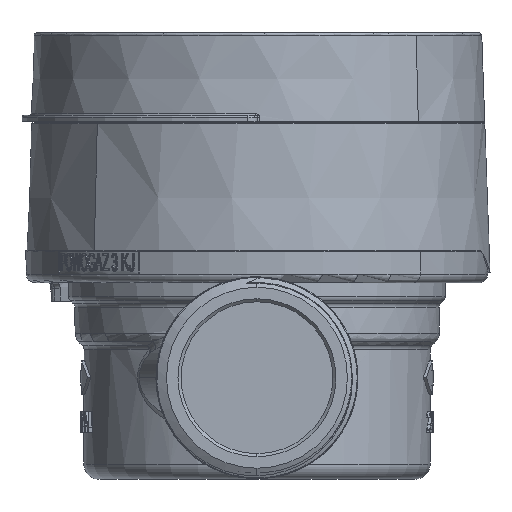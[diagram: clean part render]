
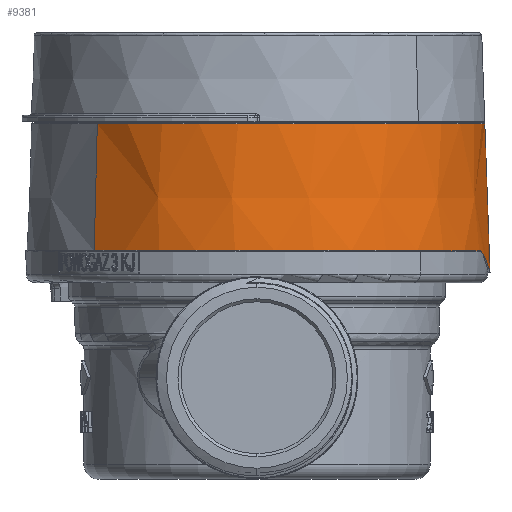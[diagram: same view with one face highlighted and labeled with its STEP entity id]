
A CAD part, left-side view. The second image highlights one B-rep face of the part: STEP entity #9381.
In plain terms, the highlighted conical face has half-angle 2 degrees and reference radius 37.9 mm.
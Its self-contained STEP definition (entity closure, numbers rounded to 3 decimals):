
#779 = CIRCLE ( 'NONE', #156481, 37.357 ) ;
#2079 = FACE_OUTER_BOUND ( 'NONE', #98425, .T. ) ;
#4197 = CARTESIAN_POINT ( 'NONE',  ( 24.17, 0.804, 29.559 ) ) ;
#4982 = CARTESIAN_POINT ( 'NONE',  ( 26.08, 0.079, 27.93 ) ) ;
#8397 = CARTESIAN_POINT ( 'NONE',  ( 18.157, 3.5, 33.484 ) ) ;
#9381 = ADVANCED_FACE ( 'NONE', ( #2079 ), #21462, .T. ) ;
#11097 = DIRECTION ( 'NONE',  ( 0., 1., 0. ) ) ;
#13133 = CARTESIAN_POINT ( 'NONE',  ( 20.892, 2.696, 31.881 ) ) ;
#13907 = CARTESIAN_POINT ( 'NONE',  ( 20.432, 2.962, 32.172 ) ) ;
#16169 = CARTESIAN_POINT ( 'NONE',  ( 24.403, 0.669, 29.374 ) ) ;
#19169 = CIRCLE ( 'NONE', #131473, 37.357 ) ;
#20082 = ORIENTED_EDGE ( 'NONE', *, *, #157755, .T. ) ;
#21462 = CONICAL_SURFACE ( 'NONE', #113527, 37.9, 0.035 ) ;
#22698 = CARTESIAN_POINT ( 'NONE',  ( 0., 24.457, 0. ) ) ;
#23616 = CARTESIAN_POINT ( 'NONE',  ( 24.17, 0.804, 29.559 ) ) ;
#24115 = VERTEX_POINT ( 'NONE', #36591 ) ;
#25006 = VERTEX_POINT ( 'NONE', #147638 ) ;
#28147 = DIRECTION ( 'NONE',  ( 0., -1., 0. ) ) ;
#34538 = LINE ( 'NONE', #142440, #127672 ) ;
#35680 = CARTESIAN_POINT ( 'NONE',  ( 23.119, 1.41, 30.391 ) ) ;
#36591 = CARTESIAN_POINT ( 'NONE',  ( 20.892, 2.696, 31.881 ) ) ;
#39892 = CIRCLE ( 'NONE', #129190, 38.089 ) ;
#40981 = CARTESIAN_POINT ( 'NONE',  ( 25.124, 0.354, 28.775 ) ) ;
#41364 = ORIENTED_EDGE ( 'NONE', *, *, #73497, .F. ) ;
#42811 = ORIENTED_EDGE ( 'NONE', *, *, #138461, .T. ) ;
#43571 = CARTESIAN_POINT ( 'NONE',  ( -37.9, 8.9, 0. ) ) ;
#45133 = CARTESIAN_POINT ( 'NONE',  ( 18.945, 3.413, 33.047 ) ) ;
#45291 = VERTEX_POINT ( 'NONE', #110276 ) ;
#46255 = CARTESIAN_POINT ( 'NONE',  ( 0., 3.5, 0. ) ) ;
#47948 = VERTEX_POINT ( 'NONE', #79372 ) ;
#49820 = EDGE_CURVE ( 'NONE', #148645, #25006, #19169, .T. ) ;
#51366 = CARTESIAN_POINT ( 'NONE',  ( 0., 24.457, 0. ) ) ;
#51387 = ORIENTED_EDGE ( 'NONE', *, *, #117794, .T. ) ;
#52964 = CARTESIAN_POINT ( 'NONE',  ( 27.019, 0.002, 27.019 ) ) ;
#53802 = ORIENTED_EDGE ( 'NONE', *, *, #63251, .T. ) ;
#59901 = DIRECTION ( 'NONE',  ( -1., 0., 0. ) ) ;
#60398 = CARTESIAN_POINT ( 'NONE',  ( 17.892, 3.5, 33.624 ) ) ;
#62035 = CARTESIAN_POINT ( 'NONE',  ( 22.026, 2.042, 31.166 ) ) ;
#63251 = EDGE_CURVE ( 'NONE', #132413, #45291, #134832, .T. ) ;
#64960 = CARTESIAN_POINT ( 'NONE',  ( 24.642, 0.552, 29.18 ) ) ;
#72281 = DIRECTION ( 'NONE',  ( 1., 0., 0. ) ) ;
#73497 = EDGE_CURVE ( 'NONE', #148645, #45291, #34538, .T. ) ;
#74008 = ORIENTED_EDGE ( 'NONE', *, *, #93192, .T. ) ;
#74834 = CARTESIAN_POINT ( 'NONE',  ( 0., 8.9, 0. ) ) ;
#76961 = DIRECTION ( 'NONE',  ( 1., 0., 0. ) ) ;
#78026 = LINE ( 'NONE', #43571, #127180 ) ;
#79372 = CARTESIAN_POINT ( 'NONE',  ( -37.357, 24.457, 0. ) ) ;
#81186 = CARTESIAN_POINT ( 'NONE',  ( 17.892, 3.5, 33.624 ) ) ;
#81920 = DIRECTION ( 'NONE',  ( 0., -1., 0. ) ) ;
#84140 = DIRECTION ( 'NONE',  ( 0.025, -0.999, 0.025 ) ) ;
#93192 = EDGE_CURVE ( 'NONE', #25006, #47948, #779, .T. ) ;
#94006 = CARTESIAN_POINT ( 'NONE',  ( 19.201, 3.361, 32.902 ) ) ;
#95467 = ORIENTED_EDGE ( 'NONE', *, *, #49820, .T. ) ;
#97287 = DIRECTION ( 'NONE',  ( 0., -1., 0. ) ) ;
#98060 = CARTESIAN_POINT ( 'NONE',  ( 20.892, 2.696, 31.881 ) ) ;
#98425 = EDGE_LOOP ( 'NONE', ( #95467, #74008, #51387, #20082, #42811, #128236, #53802, #41364 ) ) ;
#99619 = EDGE_CURVE ( 'NONE', #24115, #132413, #99719, .T. ) ;
#99719 =( BOUNDED_CURVE ( )  B_SPLINE_CURVE ( 3, ( #98060, #62035, #35680, #23616 ),
 .UNSPECIFIED., .F., .T. ) 
 B_SPLINE_CURVE_WITH_KNOTS ( ( 4, 4 ),
 ( 5.276, 5.382 ),
 .UNSPECIFIED. ) 
 CURVE ( )  GEOMETRIC_REPRESENTATION_ITEM ( )  RATIONAL_B_SPLINE_CURVE ( ( 1., 0.999, 0.999, 1. ) ) 
 REPRESENTATION_ITEM ( '' )  );
#102066 = DIRECTION ( 'NONE',  ( -0.035, -0.999, 0. ) ) ;
#102143 = CARTESIAN_POINT ( 'NONE',  ( 24.17, 0.804, 29.559 ) ) ;
#102572 = CARTESIAN_POINT ( 'NONE',  ( 25.364, 0.273, 28.568 ) ) ;
#103693 = VERTEX_POINT ( 'NONE', #60398 ) ;
#105135 = VERTEX_POINT ( 'NONE', #107794 ) ;
#105957 = CARTESIAN_POINT ( 'NONE',  ( 18.424, 3.482, 33.338 ) ) ;
#107794 = CARTESIAN_POINT ( 'NONE',  ( -38.089, 3.5, 0. ) ) ;
#108718 = CARTESIAN_POINT ( 'NONE',  ( 26.415, 24.457, 26.415 ) ) ;
#110276 = CARTESIAN_POINT ( 'NONE',  ( 27.019, 0.002, 27.019 ) ) ;
#110811 = DIRECTION ( 'NONE',  ( -1., 0., 0. ) ) ;
#113527 = AXIS2_PLACEMENT_3D ( 'NONE', #74834, #97287, #110811 ) ;
#113774 = CARTESIAN_POINT ( 'NONE',  ( 26.553, 0.014, 27.485 ) ) ;
#117631 = B_SPLINE_CURVE_WITH_KNOTS ( 'NONE', 3,
 ( #81186, #8397, #105957, #45133, #94006, #148174, #13907, #13133 ),
 .UNSPECIFIED., .F., .F.,
 ( 4, 2, 2, 4 ),
 ( 0.008, 0.009, 0.01, 0.012 ),
 .UNSPECIFIED. ) ;
#117794 = EDGE_CURVE ( 'NONE', #47948, #105135, #78026, .T. ) ;
#127180 = VECTOR ( 'NONE', #102066, 1000. ) ;
#127672 = VECTOR ( 'NONE', #84140, 1000. ) ;
#128236 = ORIENTED_EDGE ( 'NONE', *, *, #99619, .T. ) ;
#129190 = AXIS2_PLACEMENT_3D ( 'NONE', #46255, #11097, #59901 ) ;
#131473 = AXIS2_PLACEMENT_3D ( 'NONE', #22698, #81920, #72281 ) ;
#132413 = VERTEX_POINT ( 'NONE', #102143 ) ;
#134832 = B_SPLINE_CURVE_WITH_KNOTS ( 'NONE', 3,
 ( #4197, #16169, #64960, #40981, #102572, #4982, #113774, #52964 ),
 .UNSPECIFIED., .F., .F.,
 ( 4, 2, 2, 4 ),
 ( 0.012, 0.013, 0.014, 0.016 ),
 .UNSPECIFIED. ) ;
#138461 = EDGE_CURVE ( 'NONE', #103693, #24115, #117631, .T. ) ;
#142440 = CARTESIAN_POINT ( 'NONE',  ( 26.799, 8.9, 26.799 ) ) ;
#147638 = CARTESIAN_POINT ( 'NONE',  ( 0., 24.457, 37.357 ) ) ;
#148174 = CARTESIAN_POINT ( 'NONE',  ( 19.951, 3.159, 32.464 ) ) ;
#148645 = VERTEX_POINT ( 'NONE', #108718 ) ;
#156481 = AXIS2_PLACEMENT_3D ( 'NONE', #51366, #28147, #76961 ) ;
#157755 = EDGE_CURVE ( 'NONE', #105135, #103693, #39892, .T. ) ;
